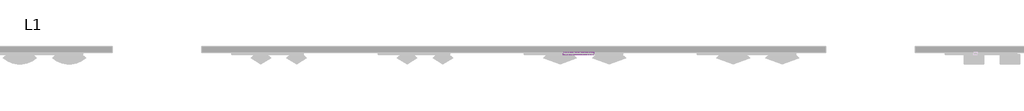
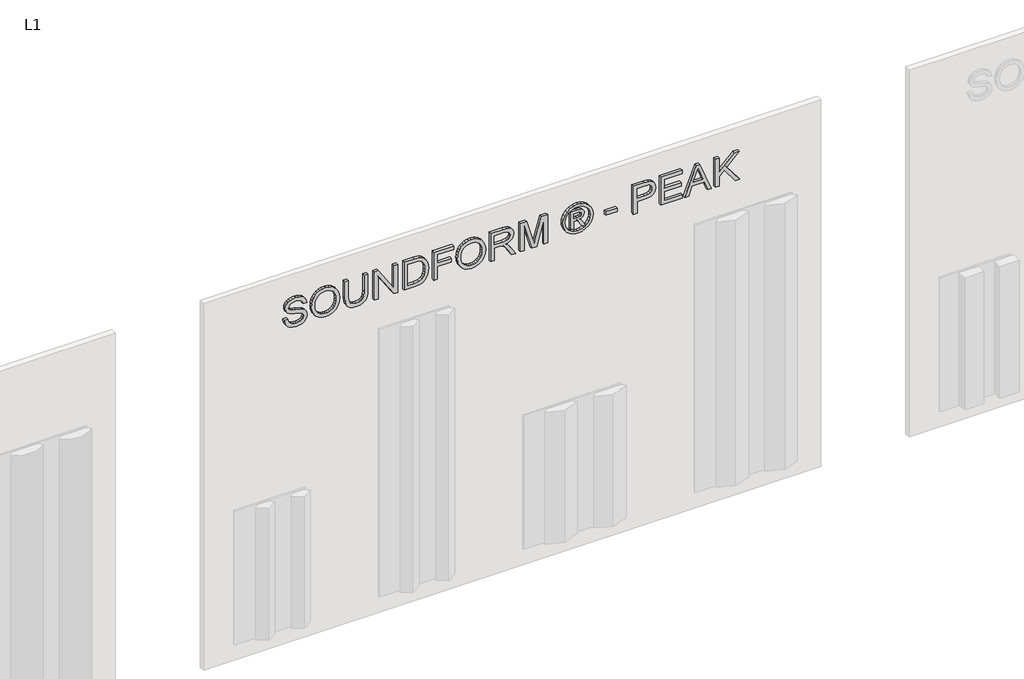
# One storey, part 9 of 17: 1 proxy.
"""IFC4 building model written with IfcOpenShell, lengths in millimetres."""

from ifc_helpers import new_model, si_unit, frame, origin, place, context, project, spatial, polyline, outline, extrude, element, save

model = new_model("IFC4")

# Units and contexts
model_context = context("Model", 3, world=origin())
ifc_project = project(units=[si_unit("LENGTHUNIT", "METRE", prefix="MILLI")], contexts=[model_context])

# Site, building, storey
site = spatial("IfcSite", under=ifc_project)
building = spatial("IfcBuilding", under=site)
storey = spatial("IfcBuildingStorey", under=building, Name="L1", Elevation=0.0)

# Proxy
placement = place(None, origin())
element("IfcBuildingElementProxy", 1, Name="10\" Arial", ObjectType="10\" Arial", at=placement, inside=storey, context=model_context, shape_type="SweptSolid", body=[
    extrude(outline(polyline([(2966.4315697, 7998.9826784), (2940.6727176, 8002.7670805), (2917.7171264, 8012.7498037), (2898.8729843, 8028.3001143), (2885.4484798, 8048.7872787), (2877.4124655, 8074.5071966), (2874.7337941, 8105.7557677), (2877.2177946, 8131.2109331), (2884.6697962, 8154.0030008), (2896.5992283, 8172.9561586), (2912.5155202, 8186.8945943), (2931.0092547, 8195.4679002), (2950.6710145, 8198.3256689), (2969.9044983, 8195.8416683), (2986.7396368, 8188.3896667), (3001.0206932, 8175.7049116), (3012.5919309, 8157.5226505), (3028.6016648, 8101.0836663), (3037.6032467, 8067.0084739), (3046.4179446, 8049.0053101), (3056.2760784, 8041.3897849), (3068.5325576, 8038.8512765), (3082.907056, 8042.4332209), (3095.0077985, 8053.1790539), (3103.2306969, 8071.7584436), (3105.971663, 8098.8410577), (3103.1995495, 8125.3007249), (3094.8832091, 8144.3784721), (3081.1472312, 8156.5882302), (3062.1162051, 8162.4439306), (3062.1162051, 8194.3388091), (3083.2496768, 8190.741291), (3102.0470979, 8181.6929881), (3117.5429006, 8167.396358), (3128.7715175, 8148.0538585), (3135.5927855, 8124.5064677), (3137.8665415, 8097.595164), (3135.6940143, 8072.7551586), (3129.176433, 8050.3134985), (3118.4617472, 8031.6173063), (3103.697907, 8018.0137045), (3086.2787558, 8009.7207247), (3067.5981373, 8006.956398), (3050.8875882, 8009.1912198), (3035.8901429, 8015.8956853), (3022.8861275, 8027.1476627), (3012.1558681, 8043.0250204), (2996.4264603, 8093.0165047), (2984.2478494, 8139.457192), (2977.636826, 8153.0685806), (2969.7643353, 8161.1357422), (2949.8611836, 8166.4307904), (2938.9051059, 8164.6631787), (2928.4629595, 8159.3603437), (2919.3679355, 8150.444417), (2912.4532255, 8137.8375302), (2908.0848108, 8122.2794327), (2906.6286725, 8104.509874), (2908.5520209, 8084.3263962), (2914.3220661, 8066.2609377), (2923.2146323, 8051.4815238), (2934.5055438, 8041.1561798), (2948.7320924, 8034.5373696), (2966.4315697, 8030.8775569), (2966.4315697, 7998.9826784)])), frame((0.0, -50.8, 0.0), z_axis=(0.0, 1.0, 0.0), x_axis=(0.0, 0.0, 1.0)), (0.0, 0.0, 1.0), 25.4),
    extrude(outline(polyline([(3002.9362548, 8234.2074071), (2970.3016269, 8237.8516462), (2939.4268239, 8248.7843633), (2912.5933886, 8266.7875272), (2892.0828637, 8291.6431063), (2879.0710615, 8321.8248809), (2874.7337941, 8355.8066313), (2878.6583592, 8387.8183123), (2890.4320546, 8417.571811), (2909.8368488, 8442.9413213), (2936.6547105, 8461.801037), (2969.2192568, 8473.5046509), (3005.864105, 8477.4058555), (3042.0261693, 8473.6993218), (3074.1390792, 8462.5797206), (3100.9102199, 8444.3896727), (3121.0469766, 8419.4717989), (3133.6616502, 8389.4613346), (3137.8665415, 8355.9935154), (3135.6278262, 8330.3475724), (3128.9116806, 8307.1700564), (3117.7181044, 8286.4609672), (3102.0470979, 8268.2203049), (3082.4203788, 8253.3396621), (3059.3596653, 8242.7106316), (3032.8649573, 8236.3332133), (3002.9362548, 8234.2074071)]), holes=[polyline([(3002.6247814, 8266.1022856), (3028.4790222, 8267.764775), (3050.3502965, 8272.7522432), (3068.2386045, 8281.0646902), (3082.1439462, 8292.7021159), (3092.5685723, 8306.644445), (3100.0147338, 8321.8716019), (3105.971663, 8356.1803994), (3102.8802893, 8380.872455), (3093.6061681, 8402.9948548), (3078.7099517, 8421.3328526), (3058.7522921, 8434.6717019), (3034.3483495, 8442.8011583), (3006.1132837, 8445.510977), (2983.6443697, 8443.9283027), (2963.8930613, 8439.1802797), (2946.8593585, 8431.2669081), (2932.5432613, 8420.1881878), (2921.2056287, 8406.6566143), (2913.1073197, 8391.384683), (2908.2483343, 8374.372394), (2906.6286725, 8355.6197473), (2908.2327607, 8337.1824674), (2913.045025, 8320.3687427), (2921.0654657, 8305.1785732), (2932.2940825, 8291.6119589), (2946.31428, 8280.4514769), (2962.7094623, 8272.4797039), (2981.4796294, 8267.6966402), (3002.6247814, 8266.1022856)])]), frame((0.0, -50.8, 0.0), z_axis=(0.0, 1.0, 0.0), x_axis=(0.0, 0.0, 1.0)), (0.0, 0.0, 1.0), 25.4),
    extrude(outline(polyline([(3133.8796816, 8688.7094254), (2987.7986465, 8688.7094254), (2947.8677537, 8684.6758446), (2933.695713, 8679.6338685), (2923.3859427, 8672.5751021), (2916.054637, 8663.1491376), (2910.8179901, 8651.0055676), (2906.6286725, 8618.5656106), (2908.7466918, 8598.1018068), (2915.1007496, 8581.0642105), (2925.3560121, 8567.9979005), (2939.1776452, 8559.447955), (2959.1353047, 8554.7291327), (2987.7986465, 8553.1561919), (3133.8796816, 8553.1561919), (3133.8796816, 8521.2613134), (2986.6773421, 8521.2613134), (2950.4607699, 8523.6830193), (2922.7941432, 8530.9481368), (2902.1668157, 8543.8742839), (2887.0681416, 8563.2790781), (2877.8173809, 8589.1703064), (2874.7337941, 8621.5557555), (2878.2768042, 8654.6653803), (2888.9058348, 8680.7357058), (2905.1803211, 8699.8134529), (2925.6596986, 8711.9453427), (2952.2050211, 8718.4395636), (2986.6773421, 8720.6043039), (3133.8796816, 8720.6043039), (3133.8796816, 8688.7094254)])), frame((0.0, -50.8, 0.0), z_axis=(0.0, 1.0, 0.0), x_axis=(0.0, 0.0, 1.0)), (0.0, 0.0, 1.0), 25.4),
    extrude(outline(polyline([(2878.7206539, 8776.4203412), (2878.7206539, 8808.3152197), (3080.9291998, 8808.3152197), (2878.7206539, 8941.6258445), (2878.7206539, 8975.7633316), (3133.8796816, 8975.7633316), (3133.8796816, 8943.8684532), (2931.7334304, 8943.8684532), (3133.8796816, 8810.5578283), (3133.8796816, 8776.4203412), (2878.7206539, 8776.4203412)])), frame((0.0, -50.8, 0.0), z_axis=(0.0, 1.0, 0.0), x_axis=(0.0, 0.0, 1.0)), (0.0, 0.0, 1.0), 25.4),
    extrude(outline(polyline([(2878.7206539, 9031.579369), (2878.7206539, 9123.8377967), (2883.0812818, 9164.8588465), (2895.8828394, 9195.3520946), (2919.0253147, 9218.6503066), (2935.6657823, 9228.33713), (2956.1840941, 9236.0928182), (2980.2843501, 9241.1854087), (3007.6706508, 9242.8829388), (3039.9081501, 9240.3755778), (3068.3456735, 9232.8534946), (3092.5160111, 9220.285542), (3111.9519527, 9202.6405726), (3123.1182749, 9185.4783871), (3130.2042953, 9165.1391726), (3133.8796816, 9119.6017582), (3133.8796816, 9031.579369), (2878.7206539, 9031.579369)]), holes=[polyline([(2910.6155323, 9063.4742474), (3101.9848032, 9063.4742474), (3101.9848032, 9119.041106), (3100.7077621, 9145.9212624), (3096.876639, 9164.267047), (3086.224248, 9182.2935713), (3068.5948523, 9197.3766718), (3042.9294423, 9207.5852132), (3008.1690083, 9210.9880604), (2981.9351593, 9209.251596), (2959.9217751, 9204.042203), (2942.0509875, 9195.7180758), (2928.2449281, 9184.6374088), (2915.225339, 9160.9654287), (2910.6155323, 9119.9132316), (2910.6155323, 9063.4742474)])]), frame((0.0, -50.8, 0.0), z_axis=(0.0, 1.0, 0.0), x_axis=(0.0, 0.0, 1.0)), (0.0, 0.0, 1.0), 25.4),
    extrude(outline(polyline([(2878.7206539, 9286.7383967), (2878.7206539, 9318.6332752), (2994.3395883, 9318.6332752), (2994.3395883, 9438.2390695), (3026.2344668, 9438.2390695), (3026.2344668, 9318.6332752), (3101.9848032, 9318.6332752), (3101.9848032, 9458.1733685), (3133.8796816, 9458.1733685), (3133.8796816, 9286.7383967), (2878.7206539, 9286.7383967)])), frame((0.0, -50.8, 0.0), z_axis=(0.0, 1.0, 0.0), x_axis=(0.0, 0.0, 1.0)), (0.0, 0.0, 1.0), 25.4),
    extrude(outline(polyline([(3002.9362548, 9490.068247), (2970.3016269, 9493.712486), (2939.4268239, 9504.6452032), (2912.5933886, 9522.648367), (2892.0828637, 9547.5039461), (2879.0710615, 9577.6857208), (2874.7337941, 9611.6674712), (2878.6583592, 9643.6791522), (2890.4320546, 9673.4326509), (2909.8368488, 9698.8021611), (2936.6547105, 9717.6618769), (2969.2192568, 9729.3654907), (3005.864105, 9733.2666954), (3042.0261693, 9729.5601616), (3074.1390792, 9718.4405604), (3100.9102199, 9700.2505126), (3121.0469766, 9675.3326388), (3133.6616502, 9645.3221745), (3137.8665415, 9611.8543552), (3135.6278262, 9586.2084123), (3128.9116806, 9563.0308962), (3117.7181044, 9542.3218071), (3102.0470979, 9524.0811448), (3082.4203788, 9509.200502), (3059.3596653, 9498.5714714), (3032.8649573, 9492.1940531), (3002.9362548, 9490.068247)]), holes=[polyline([(3002.6247814, 9521.9631255), (3028.4790222, 9523.6256149), (3050.3502965, 9528.613083), (3068.2386045, 9536.92553), (3082.1439462, 9548.5629558), (3092.5685723, 9562.5052848), (3100.0147338, 9577.7324418), (3105.971663, 9612.0412393), (3102.8802893, 9636.7332949), (3093.6061681, 9658.8556947), (3078.7099517, 9677.1936925), (3058.7522921, 9690.5325418), (3034.3483495, 9698.6619981), (3006.1132837, 9701.3718169), (2983.6443697, 9699.7891426), (2963.8930613, 9695.0411196), (2946.8593585, 9687.1277479), (2932.5432613, 9676.0490276), (2921.2056287, 9662.5174541), (2913.1073197, 9647.2455229), (2908.2483343, 9630.2332339), (2906.6286725, 9611.4805871), (2908.2327607, 9593.0433072), (2913.045025, 9576.2295825), (2921.0654657, 9561.039413), (2932.2940825, 9547.4727988), (2946.31428, 9536.3123167), (2962.7094623, 9528.3405438), (2981.4796294, 9523.5574801), (3002.6247814, 9521.9631255)])]), frame((0.0, -50.8, 0.0), z_axis=(0.0, 1.0, 0.0), x_axis=(0.0, 0.0, 1.0)), (0.0, 0.0, 1.0), 25.4),
    extrude(outline(polyline([(2878.7206539, 9777.1221533), (2878.7206539, 9809.0170317), (2990.3527285, 9809.0170317), (2990.3527285, 9847.5151468), (2989.2314242, 9866.0166681), (2983.1576925, 9881.1854237), (2966.6184537, 9898.0361359), (2931.608841, 9922.0195894), (2878.7206539, 9955.2226563), (2878.7206539, 9992.2879936), (2947.8677537, 9949.7407241), (2980.6970524, 9923.88843), (2994.3395883, 9905.7606768), (3002.7960918, 9937.1805583), (3018.0738631, 9959.1783688), (3038.9114351, 9972.14345), (3064.0473403, 9976.4651437), (3084.2541786, 9973.8565538), (3102.6388974, 9966.0307841), (3117.4650323, 9953.8365996), (3126.996119, 9938.1227654), (3132.158791, 9916.6233124), (3133.8796816, 9887.0722714), (3133.8796816, 9777.1221533), (2878.7206539, 9777.1221533)]), holes=[polyline([(3022.247607, 9809.0170317), (3101.9848032, 9809.0170317), (3101.9848032, 9888.4427545), (3099.2282634, 9913.6798886), (3090.958644, 9931.083466), (3078.4218388, 9941.1985654), (3062.8637413, 9944.5702652), (3051.5961902, 9942.8026536), (3041.2163384, 9937.4998185), (3032.6352456, 9928.7941364), (3026.7639716, 9916.8179833), (3022.247607, 9880.4067402), (3022.247607, 9809.0170317)])]), frame((0.0, -50.8, 0.0), z_axis=(0.0, 1.0, 0.0), x_axis=(0.0, 0.0, 1.0)), (0.0, 0.0, 1.0), 25.4),
    extrude(outline(polyline([(2878.7206539, 10032.281181), (2878.7206539, 10064.1760595), (3101.9848032, 10064.1760595), (2878.7206539, 10128.3395846), (2878.7206539, 10171.5098009), (3101.9848032, 10235.6110313), (2878.7206539, 10235.6110313), (2878.7206539, 10267.5059098), (3133.8796816, 10267.5059098), (3133.8796816, 10212.6242927), (2957.1496617, 10161.2934727), (2916.4712327, 10149.8935454), (2954.0349274, 10139.303449), (3133.8796816, 10086.975914), (3133.8796816, 10032.281181), (2878.7206539, 10032.281181)])), frame((0.0, -50.8, 0.0), z_axis=(0.0, 1.0, 0.0), x_axis=(0.0, 0.0, 1.0)), (0.0, 0.0, 1.0), 25.4),
    extrude(outline(polyline([(2926.5629716, 10466.8489002), (2926.5629716, 10490.7700591), (2994.3395883, 10490.7700591), (2994.3395883, 10505.6584887), (2993.0936946, 10517.4477577), (2988.483888, 10526.0288505), (2951.8546135, 10549.5762413), (2926.5629716, 10563.5925453), (2926.5629716, 10590.4415543), (2958.0217873, 10572.5629798), (2989.854371, 10550.822135), (2998.3264481, 10538.363198), (3002.7182234, 10556.3352145), (3012.7788149, 10570.3826659), (3026.795119, 10579.4465425), (3043.0540316, 10582.4678347), (3055.0379716, 10580.7157967), (3066.3210963, 10575.4596827), (3075.618578, 10567.2445712), (3081.6455887, 10556.6155406), (3086.0373639, 10518.3666043), (3086.0373639, 10466.8489002), (2926.5629716, 10466.8489002)]), holes=[polyline([(3018.2607472, 10490.7700591), (3062.1162051, 10490.7700591), (3062.1162051, 10519.1141405), (3059.6244177, 10544.1877511), (3052.0244662, 10554.7467001), (3040.4376549, 10558.5466758), (3031.3971388, 10556.5688196), (3024.3344789, 10550.6352509), (3019.7791801, 10539.2820446), (3018.2607472, 10521.0452758), (3018.2607472, 10490.7700591)])]), frame((0.0, -50.8, 0.0), z_axis=(0.0, 1.0, 0.0), x_axis=(0.0, 0.0, 1.0)), (0.0, 0.0, 1.0), 25.4),
    extrude(outline(polyline([(3137.8665415, 10526.714092), (3133.6149292, 10494.0093827), (3120.8600926, 10462.0522095), (3100.193831, 10433.9417331), (3072.207944, 10412.7771141), (3039.8925764, 10399.5083463), (3006.2378731, 10395.0854237), (2972.8790695, 10399.4460516), (2940.8284543, 10412.5279353), (2912.9437962, 10433.4355888), (2892.0828637, 10461.273526), (2879.0710615, 10493.285207), (2874.7337941, 10526.714092), (2879.0710615, 10560.1896981), (2892.0828637, 10592.2169528), (2912.9437962, 10620.0315295), (2940.8284543, 10640.8691014), (2972.8790695, 10653.8809037), (3006.2378731, 10658.2181711), (3039.8925764, 10653.818609), (3072.207944, 10640.6199227), (3100.193831, 10619.5253851), (3120.8600926, 10591.4382693), (3133.6149292, 10559.4655224), (3137.8665415, 10526.714092)]), holes=[polyline([(3113.9453826, 10526.714092), (3110.4646671, 10553.4462985), (3100.0225206, 10579.5711319), (3083.1017269, 10602.5500836), (3060.1850699, 10619.8446454), (3033.7409763, 10630.6839205), (3006.2378731, 10634.2970122), (2978.9138671, 10630.7462152), (2952.7578864, 10620.0938241), (2930.0125397, 10603.0328674), (2912.9204357, 10580.2563734), (2902.2213236, 10554.0536717), (2898.6549529, 10526.714092), (2902.2213236, 10499.4134466), (2912.9204357, 10473.202958), (2930.0125397, 10450.3875298), (2952.7578864, 10433.2720653), (2978.9138671, 10422.5729532), (3006.2378731, 10419.0065825), (3033.7409763, 10422.6430347), (3060.1850699, 10433.5523914), (3083.1017269, 10450.8936742), (3100.0225206, 10473.8259049), (3110.4646671, 10499.911804), (3113.9453826, 10526.714092)])]), frame((0.0, -50.8, 0.0), z_axis=(0.0, 1.0, 0.0), x_axis=(0.0, 0.0, 1.0)), (0.0, 0.0, 1.0), 25.4),
    extrude(outline(polyline([(10865.5348811, -50.8), (10765.8633859, -50.8), (10765.8633859, -25.4), (10865.5348811, -25.4), (10865.5348811, -50.8)])), frame((0.0, 0.0, 2954.4709902), z_axis=(0.0, 0.0, 1.0), x_axis=(1.0, 0.0, 0.0)), (0.0, 0.0, 1.0), 31.8948785),
    extrude(outline(polyline([(2878.7206539, 11005.0749744), (2878.7206539, 11036.9698529), (2982.3790089, 11036.9698529), (2982.3790089, 11101.8186195), (2983.7884261, 11126.5398757), (2988.0166778, 11147.1302157), (2995.063764, 11163.5896393), (3004.9296847, 11175.9181467), (3029.9877215, 11191.3127206), (3060.0604805, 11196.4442453), (3078.2271679, 11194.5442574), (3094.8520618, 11188.8442938), (3108.9462342, 11180.0218091), (3119.5207569, 11168.754258), (3126.9104638, 11154.7613145), (3131.4501889, 11137.7626525), (3133.8796816, 11099.6383055), (3133.8796816, 11005.0749744), (2878.7206539, 11005.0749744)]), holes=[polyline([(3014.2738874, 11036.9698529), (3101.9848032, 11036.9698529), (3101.9848032, 11102.9399238), (3099.8044892, 11134.8348023), (3094.4471463, 11146.8810369), (3085.3521224, 11156.3576158), (3073.2669536, 11162.5014291), (3058.9391762, 11164.5493668), (3040.0794604, 11161.0764381), (3025.9852881, 11150.6576522), (3017.2017375, 11131.9692468), (3014.2738874, 11103.68746), (3014.2738874, 11036.9698529)])]), frame((0.0, -50.8, 0.0), z_axis=(0.0, 1.0, 0.0), x_axis=(0.0, 0.0, 1.0)), (0.0, 0.0, 1.0), 25.4),
    extrude(outline(polyline([(2878.7206539, 11240.2997032), (2878.7206539, 11427.6821142), (2910.6155323, 11427.6821142), (2910.6155323, 11272.1945817), (2994.3395883, 11272.1945817), (2994.3395883, 11415.7215348), (3026.2344668, 11415.7215348), (3026.2344668, 11272.1945817), (3101.9848032, 11272.1945817), (3101.9848032, 11423.6952544), (3133.8796816, 11423.6952544), (3133.8796816, 11240.2997032), (2878.7206539, 11240.2997032)])), frame((0.0, -50.8, 0.0), z_axis=(0.0, 1.0, 0.0), x_axis=(0.0, 0.0, 1.0)), (0.0, 0.0, 1.0), 25.4),
    extrude(outline(polyline([(2878.7206539, 11445.8721621), (2878.7206539, 11479.5112917), (2958.45785, 11508.6652041), (2958.45785, 11613.8186315), (2878.7206539, 11642.9725439), (2878.7206539, 11676.6739682), (3133.8796816, 11574.8844537), (3133.8796816, 11547.7239713), (2878.7206539, 11445.8721621)]), holes=[polyline([(2990.3527285, 11520.3766048), (3058.5654081, 11545.3567733), (3101.9848032, 11561.2419178), (3053.0834758, 11579.1204923), (2990.3527285, 11602.1695255), (2990.3527285, 11520.3766048)])]), frame((0.0, -50.8, 0.0), z_axis=(0.0, 1.0, 0.0), x_axis=(0.0, 0.0, 1.0)), (0.0, 0.0, 1.0), 25.4),
    extrude(outline(polyline([(2878.7206539, 11710.7491607), (2878.7206539, 11742.6440391), (2966.4315697, 11742.6440391), (3007.4214721, 11785.5650768), (2878.7206539, 11883.056258), (2878.7206539, 11922.0527305), (3028.9754329, 11808.1780472), (3133.8796816, 11918.0658707), (3133.8796816, 11873.4628766), (3008.9788392, 11742.6440391), (3133.8796816, 11742.6440391), (3133.8796816, 11710.7491607), (2878.7206539, 11710.7491607)])), frame((0.0, -50.8, 0.0), z_axis=(0.0, 1.0, 0.0), x_axis=(0.0, 0.0, 1.0)), (0.0, 0.0, 1.0), 25.4),
])

save(model, "model.ifc")
